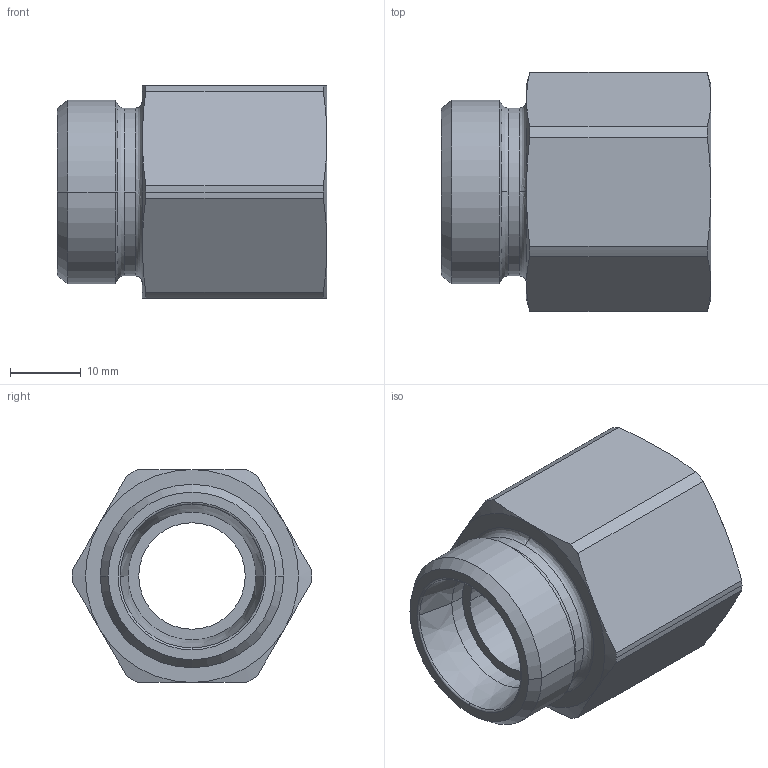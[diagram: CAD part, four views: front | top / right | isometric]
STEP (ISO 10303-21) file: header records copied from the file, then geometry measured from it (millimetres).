
FILE_DESCRIPTION((''),'2;1');
FILE_NAME('100809.stp','2007-10-30T15:21:12',(''),(''),'AutoCAD STEP 2000i','AutoCAD 2000i',', , ');
FILE_SCHEMA(('CONFIG_CONTROL_DESIGN'));
Length unit declared in the file: millimetre
Products named in the file (2): 100809.0; CHIAVE SMUSSATA#0
Assembly tree (1 placements, depth 2):
  100809.0
    CHIAVE SMUSSATA#0
Bounding box: 38 x 33.7 x 30 mm (x, y, z)
Volume: 15546.1 mm3; surface area: 6857.8 mm2
Topology: 1 solids, 1 shells, 56 faces, 134 edges, 82 vertices
Faces by surface type: cone 22, cylinder 18, plane 10, bspline 4, torus 2
Entity records: 1887 total; most frequent: CARTESIAN_POINT 498, DIRECTION 294, ORIENTED_EDGE 268, EDGE_CURVE 134, AXIS2_PLACEMENT_3D 130, VERTEX_POINT 82, CIRCLE 76, EDGE_LOOP 60
